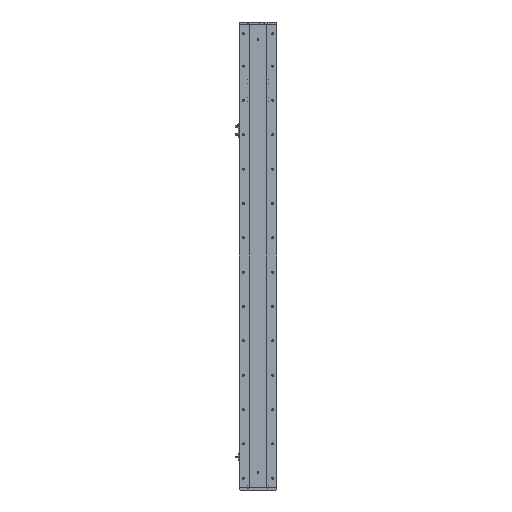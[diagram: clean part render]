
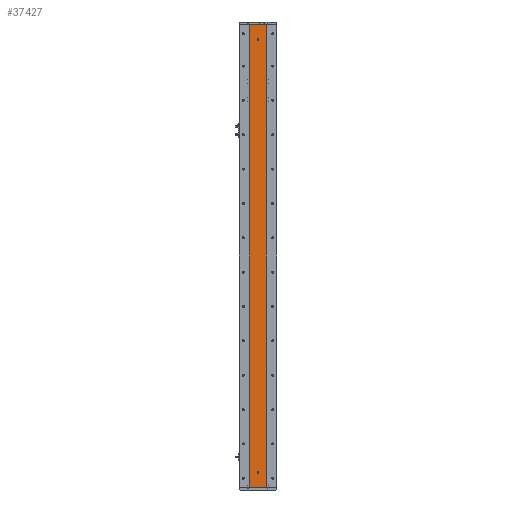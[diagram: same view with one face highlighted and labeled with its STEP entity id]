
A CAD part, left-side view. The second image highlights one B-rep face of the part: STEP entity #37427.
In plain terms, the highlighted planar face has unit normal (-1, 0, 0).
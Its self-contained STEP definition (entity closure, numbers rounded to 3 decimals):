
#89 = ORIENTED_EDGE ( 'NONE', *, *, #37415, .F. ) ;
#277 = EDGE_CURVE ( 'NONE', #42001, #32925, #26606, .T. ) ;
#642 = DIRECTION ( 'NONE',  ( 0., 0., 1. ) ) ;
#1271 = CARTESIAN_POINT ( 'NONE',  ( -24.994, 29.785, 1615. ) ) ;
#1468 = EDGE_CURVE ( 'NONE', #30102, #7949, #32335, .T. ) ;
#1695 = AXIS2_PLACEMENT_3D ( 'NONE', #1271, #24511, #4628 ) ;
#1755 = VERTEX_POINT ( 'NONE', #13299 ) ;
#4588 = CARTESIAN_POINT ( 'NONE',  ( -24.994, 0., 53. ) ) ;
#4628 = DIRECTION ( 'NONE',  ( 0., 0., -1. ) ) ;
#4761 = CARTESIAN_POINT ( 'NONE',  ( -24.994, -29.785, 1615. ) ) ;
#4967 = ORIENTED_EDGE ( 'NONE', *, *, #1468, .T. ) ;
#5346 = DIRECTION ( 'NONE',  ( -1., 0., 0. ) ) ;
#5704 = CARTESIAN_POINT ( 'NONE',  ( -24.994, 0., 1568. ) ) ;
#6446 = CARTESIAN_POINT ( 'NONE',  ( -24.994, 0., 50. ) ) ;
#6790 = DIRECTION ( 'NONE',  ( 0., -1., 0. ) ) ;
#7949 = VERTEX_POINT ( 'NONE', #42870 ) ;
#8199 = CARTESIAN_POINT ( 'NONE',  ( -24.994, 0., 1562. ) ) ;
#8563 = FACE_BOUND ( 'NONE', #20276, .T. ) ;
#9291 = CARTESIAN_POINT ( 'NONE',  ( -24.994, 29.785, 1615. ) ) ;
#9675 = LINE ( 'NONE', #26675, #26290 ) ;
#9819 = DIRECTION ( 'NONE',  ( 0., 0., -1. ) ) ;
#10814 = DIRECTION ( 'NONE',  ( 0., 0., 1. ) ) ;
#11130 = VERTEX_POINT ( 'NONE', #5704 ) ;
#11420 = DIRECTION ( 'NONE',  ( 0., 0., -1. ) ) ;
#13299 = CARTESIAN_POINT ( 'NONE',  ( -24.994, -29.785, 0. ) ) ;
#14355 = CARTESIAN_POINT ( 'NONE',  ( -24.994, 0., 1565. ) ) ;
#14603 = CARTESIAN_POINT ( 'NONE',  ( -24.994, -29.785, 1615. ) ) ;
#14612 = VECTOR ( 'NONE', #9819, 1000. ) ;
#17113 = ORIENTED_EDGE ( 'NONE', *, *, #19701, .T. ) ;
#17723 = DIRECTION ( 'NONE',  ( 0., 0., 1. ) ) ;
#18328 = ORIENTED_EDGE ( 'NONE', *, *, #40079, .F. ) ;
#18631 = EDGE_CURVE ( 'NONE', #32925, #42001, #37133, .T. ) ;
#19508 = FACE_OUTER_BOUND ( 'NONE', #38621, .T. ) ;
#19701 = EDGE_CURVE ( 'NONE', #7949, #1755, #9675, .T. ) ;
#20276 = EDGE_LOOP ( 'NONE', ( #23713, #89 ) ) ;
#20554 = DIRECTION ( 'NONE',  ( -1., 0., 0. ) ) ;
#21583 = DIRECTION ( 'NONE',  ( -1., 0., 0. ) ) ;
#22887 = EDGE_LOOP ( 'NONE', ( #24543, #36748 ) ) ;
#23184 = AXIS2_PLACEMENT_3D ( 'NONE', #40462, #20554, #642 ) ;
#23630 = EDGE_CURVE ( 'NONE', #42060, #1755, #24925, .T. ) ;
#23713 = ORIENTED_EDGE ( 'NONE', *, *, #35800, .F. ) ;
#23728 = AXIS2_PLACEMENT_3D ( 'NONE', #25232, #5346, #28581 ) ;
#24511 = DIRECTION ( 'NONE',  ( 1., 0., 0. ) ) ;
#24543 = ORIENTED_EDGE ( 'NONE', *, *, #18631, .F. ) ;
#24925 = LINE ( 'NONE', #14603, #32766 ) ;
#25232 = CARTESIAN_POINT ( 'NONE',  ( -24.994, 0., 1565. ) ) ;
#25984 = AXIS2_PLACEMENT_3D ( 'NONE', #6446, #21583, #10814 ) ;
#26290 = VECTOR ( 'NONE', #6790, 1000. ) ;
#26606 = CIRCLE ( 'NONE', #25984, 3. ) ;
#26675 = CARTESIAN_POINT ( 'NONE',  ( -24.994, 29.785, 0. ) ) ;
#27028 = CARTESIAN_POINT ( 'NONE',  ( -24.994, 29.785, 1615. ) ) ;
#27239 = CIRCLE ( 'NONE', #27394, 3. ) ;
#27394 = AXIS2_PLACEMENT_3D ( 'NONE', #14355, #37643, #17723 ) ;
#28581 = DIRECTION ( 'NONE',  ( 0., 0., 1. ) ) ;
#30102 = VERTEX_POINT ( 'NONE', #34428 ) ;
#31706 = CIRCLE ( 'NONE', #23728, 3. ) ;
#31960 = VECTOR ( 'NONE', #33619, 1000. ) ;
#32335 = LINE ( 'NONE', #9291, #14612 ) ;
#32766 = VECTOR ( 'NONE', #11420, 1000. ) ;
#32925 = VERTEX_POINT ( 'NONE', #4588 ) ;
#33001 = LINE ( 'NONE', #27028, #31960 ) ;
#33619 = DIRECTION ( 'NONE',  ( 0., -1., 0. ) ) ;
#34046 = FACE_BOUND ( 'NONE', #22887, .T. ) ;
#34284 = CARTESIAN_POINT ( 'NONE',  ( -24.994, 0., 47. ) ) ;
#34428 = CARTESIAN_POINT ( 'NONE',  ( -24.994, 29.785, 1615. ) ) ;
#35158 = ORIENTED_EDGE ( 'NONE', *, *, #23630, .F. ) ;
#35800 = EDGE_CURVE ( 'NONE', #11130, #41308, #31706, .T. ) ;
#36748 = ORIENTED_EDGE ( 'NONE', *, *, #277, .F. ) ;
#37133 = CIRCLE ( 'NONE', #23184, 3. ) ;
#37415 = EDGE_CURVE ( 'NONE', #41308, #11130, #27239, .T. ) ;
#37427 = ADVANCED_FACE ( 'NONE', ( #8563, #34046, #19508 ), #40965, .F. ) ;
#37643 = DIRECTION ( 'NONE',  ( -1., 0., 0. ) ) ;
#38621 = EDGE_LOOP ( 'NONE', ( #17113, #35158, #18328, #4967 ) ) ;
#40079 = EDGE_CURVE ( 'NONE', #30102, #42060, #33001, .T. ) ;
#40462 = CARTESIAN_POINT ( 'NONE',  ( -24.994, 0., 50. ) ) ;
#40965 = PLANE ( 'NONE',  #1695 ) ;
#41308 = VERTEX_POINT ( 'NONE', #8199 ) ;
#42001 = VERTEX_POINT ( 'NONE', #34284 ) ;
#42060 = VERTEX_POINT ( 'NONE', #4761 ) ;
#42870 = CARTESIAN_POINT ( 'NONE',  ( -24.994, 29.785, 0. ) ) ;
